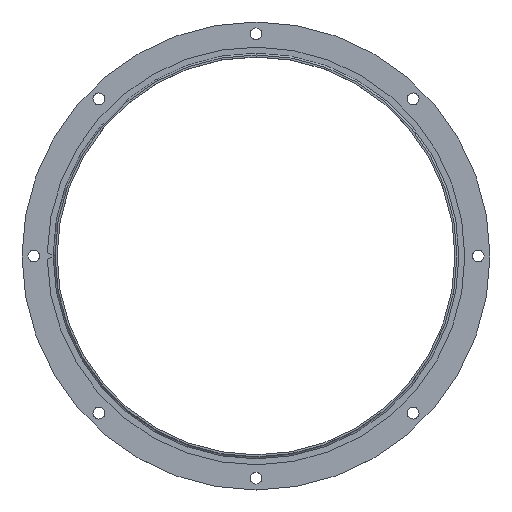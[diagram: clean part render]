
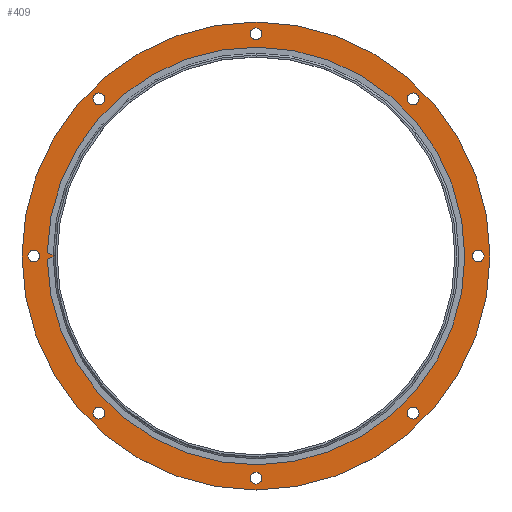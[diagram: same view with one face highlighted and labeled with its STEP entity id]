
A CAD part, top view. The second image highlights one B-rep face of the part: STEP entity #409.
In plain terms, the highlighted planar face has unit normal (0, 0, 1).
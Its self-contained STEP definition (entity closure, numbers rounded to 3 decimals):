
#61=PLANE('',#512);
#80=FACE_BOUND('',#143,.T.);
#81=FACE_BOUND('',#144,.T.);
#82=FACE_BOUND('',#145,.T.);
#83=FACE_BOUND('',#146,.T.);
#84=FACE_BOUND('',#147,.T.);
#85=FACE_BOUND('',#148,.T.);
#86=FACE_BOUND('',#149,.T.);
#87=FACE_BOUND('',#150,.T.);
#88=FACE_BOUND('',#151,.T.);
#108=FACE_OUTER_BOUND('',#142,.T.);
#142=EDGE_LOOP('',(#310));
#143=EDGE_LOOP('',(#311));
#144=EDGE_LOOP('',(#312));
#145=EDGE_LOOP('',(#313));
#146=EDGE_LOOP('',(#314));
#147=EDGE_LOOP('',(#315));
#148=EDGE_LOOP('',(#316));
#149=EDGE_LOOP('',(#317));
#150=EDGE_LOOP('',(#318));
#151=EDGE_LOOP('',(#319));
#175=CIRCLE('',#484,6.);
#177=CIRCLE('',#487,6.);
#179=CIRCLE('',#490,6.);
#181=CIRCLE('',#493,6.);
#183=CIRCLE('',#496,6.);
#185=CIRCLE('',#499,6.);
#187=CIRCLE('',#502,6.);
#188=CIRCLE('',#504,202.);
#190=CIRCLE('',#507,6.);
#192=CIRCLE('',#510,237.);
#205=VERTEX_POINT('',#685);
#207=VERTEX_POINT('',#690);
#209=VERTEX_POINT('',#695);
#211=VERTEX_POINT('',#700);
#213=VERTEX_POINT('',#705);
#215=VERTEX_POINT('',#710);
#217=VERTEX_POINT('',#715);
#218=VERTEX_POINT('',#718);
#220=VERTEX_POINT('',#723);
#222=VERTEX_POINT('',#728);
#243=EDGE_CURVE('',#205,#205,#175,.T.);
#245=EDGE_CURVE('',#207,#207,#177,.T.);
#247=EDGE_CURVE('',#209,#209,#179,.T.);
#249=EDGE_CURVE('',#211,#211,#181,.T.);
#251=EDGE_CURVE('',#213,#213,#183,.T.);
#253=EDGE_CURVE('',#215,#215,#185,.T.);
#255=EDGE_CURVE('',#217,#217,#187,.T.);
#256=EDGE_CURVE('',#218,#218,#188,.T.);
#258=EDGE_CURVE('',#220,#220,#190,.T.);
#260=EDGE_CURVE('',#222,#222,#192,.T.);
#310=ORIENTED_EDGE('',*,*,#260,.F.);
#311=ORIENTED_EDGE('',*,*,#243,.T.);
#312=ORIENTED_EDGE('',*,*,#245,.T.);
#313=ORIENTED_EDGE('',*,*,#247,.T.);
#314=ORIENTED_EDGE('',*,*,#249,.T.);
#315=ORIENTED_EDGE('',*,*,#251,.T.);
#316=ORIENTED_EDGE('',*,*,#253,.T.);
#317=ORIENTED_EDGE('',*,*,#255,.T.);
#318=ORIENTED_EDGE('',*,*,#256,.T.);
#319=ORIENTED_EDGE('',*,*,#258,.T.);
#409=ADVANCED_FACE('',(#108,#80,#81,#82,#83,#84,#85,#86,#87,#88),#61,.F.);
#484=AXIS2_PLACEMENT_3D('',#686,#550,#551);
#487=AXIS2_PLACEMENT_3D('',#691,#556,#557);
#490=AXIS2_PLACEMENT_3D('',#696,#562,#563);
#493=AXIS2_PLACEMENT_3D('',#701,#568,#569);
#496=AXIS2_PLACEMENT_3D('',#706,#574,#575);
#499=AXIS2_PLACEMENT_3D('',#711,#580,#581);
#502=AXIS2_PLACEMENT_3D('',#716,#586,#587);
#504=AXIS2_PLACEMENT_3D('',#719,#590,#591);
#507=AXIS2_PLACEMENT_3D('',#724,#596,#597);
#510=AXIS2_PLACEMENT_3D('',#729,#602,#603);
#512=AXIS2_PLACEMENT_3D('',#732,#606,#607);
#550=DIRECTION('center_axis',(0.,0.,-1.));
#551=DIRECTION('ref_axis',(-1.,0.,0.));
#556=DIRECTION('center_axis',(0.,0.,-1.));
#557=DIRECTION('ref_axis',(-1.,0.,0.));
#562=DIRECTION('center_axis',(0.,0.,-1.));
#563=DIRECTION('ref_axis',(-1.,0.,0.));
#568=DIRECTION('center_axis',(0.,0.,-1.));
#569=DIRECTION('ref_axis',(-1.,0.,0.));
#574=DIRECTION('center_axis',(0.,0.,-1.));
#575=DIRECTION('ref_axis',(-1.,0.,0.));
#580=DIRECTION('center_axis',(0.,0.,-1.));
#581=DIRECTION('ref_axis',(-1.,0.,0.));
#586=DIRECTION('center_axis',(0.,0.,-1.));
#587=DIRECTION('ref_axis',(-1.,0.,0.));
#590=DIRECTION('center_axis',(0.,0.,-1.));
#591=DIRECTION('ref_axis',(-1.,0.,0.));
#596=DIRECTION('center_axis',(0.,0.,-1.));
#597=DIRECTION('ref_axis',(-1.,0.,0.));
#602=DIRECTION('center_axis',(0.,0.,-1.));
#603=DIRECTION('ref_axis',(-1.,0.,0.));
#606=DIRECTION('center_axis',(0.,0.,-1.));
#607=DIRECTION('ref_axis',(-1.,0.,0.));
#685=CARTESIAN_POINT('',(231.,0.,2.));
#686=CARTESIAN_POINT('Origin',(225.,0.,2.));
#690=CARTESIAN_POINT('',(6.,-225.,2.));
#691=CARTESIAN_POINT('Origin',(0.,-225.,2.));
#695=CARTESIAN_POINT('',(-219.,0.,2.));
#696=CARTESIAN_POINT('Origin',(-225.,0.,2.));
#700=CARTESIAN_POINT('',(-153.099,159.099,2.));
#701=CARTESIAN_POINT('Origin',(-159.099,159.099,2.));
#705=CARTESIAN_POINT('',(-153.099,-159.099,2.));
#706=CARTESIAN_POINT('Origin',(-159.099,-159.099,2.));
#710=CARTESIAN_POINT('',(165.099,-159.099,2.));
#711=CARTESIAN_POINT('Origin',(159.099,-159.099,2.));
#715=CARTESIAN_POINT('',(165.099,159.099,2.));
#716=CARTESIAN_POINT('Origin',(159.099,159.099,2.));
#718=CARTESIAN_POINT('',(202.,0.,2.));
#719=CARTESIAN_POINT('Origin',(0.,0.,2.));
#723=CARTESIAN_POINT('',(6.,225.,2.));
#724=CARTESIAN_POINT('Origin',(0.,225.,2.));
#728=CARTESIAN_POINT('',(237.,0.,2.));
#729=CARTESIAN_POINT('Origin',(0.,0.,2.));
#732=CARTESIAN_POINT('Origin',(0.,0.,2.));
